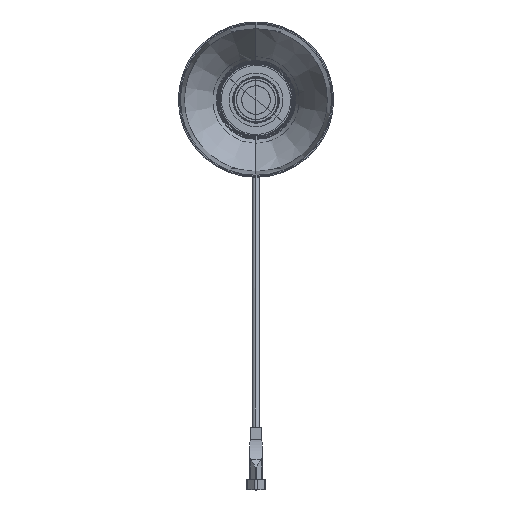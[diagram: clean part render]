
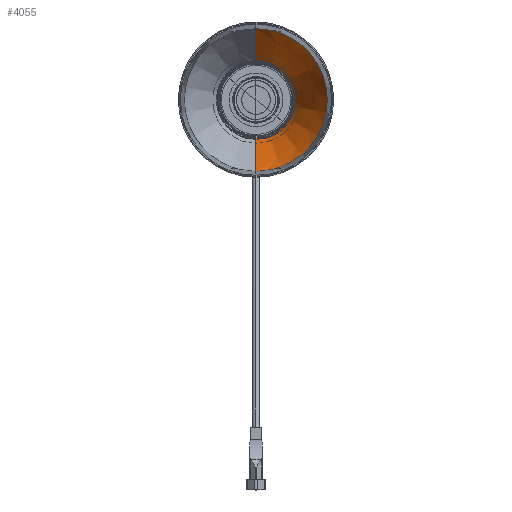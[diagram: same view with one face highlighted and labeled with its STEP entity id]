
A CAD part, top view. The second image highlights one B-rep face of the part: STEP entity #4055.
In plain terms, the highlighted conical face has half-angle 30 degrees and reference radius 52.701 mm.
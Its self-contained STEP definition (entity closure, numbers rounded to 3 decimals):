
#71=CONICAL_SURFACE('',#4496,52.701,0.524);
#210=B_SPLINE_CURVE_WITH_KNOTS('',3,(#8223,#8224,#8225,#8226,#8227,#8228,
#8229,#8230),.UNSPECIFIED.,.F.,.F.,(4,1,1,1,1,4),(0.,0.2,0.4,0.6,0.8,1.),
 .UNSPECIFIED.);
#601=FACE_OUTER_BOUND('',#858,.T.);
#858=EDGE_LOOP('',(#3552,#3553,#3554,#3555));
#1130=LINE('',#8243,#1392);
#1131=LINE('',#8246,#1393);
#1392=VECTOR('',#5584,304.8);
#1393=VECTOR('',#5587,304.8);
#1579=CIRCLE('',#4497,55.306);
#1903=VERTEX_POINT('',#8220);
#1904=VERTEX_POINT('',#8222);
#1905=VERTEX_POINT('',#8242);
#1906=VERTEX_POINT('',#8244);
#2464=EDGE_CURVE('',#1904,#1903,#210,.T.);
#2467=EDGE_CURVE('',#1905,#1903,#1130,.T.);
#2468=EDGE_CURVE('',#1906,#1905,#1579,.T.);
#2469=EDGE_CURVE('',#1904,#1906,#1131,.T.);
#3552=ORIENTED_EDGE('',*,*,#2467,.F.);
#3553=ORIENTED_EDGE('',*,*,#2468,.F.);
#3554=ORIENTED_EDGE('',*,*,#2469,.F.);
#3555=ORIENTED_EDGE('',*,*,#2464,.T.);
#4055=ADVANCED_FACE('',(#601),#71,.F.);
#4496=AXIS2_PLACEMENT_3D('',#8241,#5582,#5583);
#4497=AXIS2_PLACEMENT_3D('',#8245,#5585,#5586);
#5582=DIRECTION('center_axis',(0.,0.,
1.));
#5583=DIRECTION('ref_axis',(1.,0.,0.));
#5584=DIRECTION('',(0.,0.5,-0.866));
#5585=DIRECTION('center_axis',(0.,0.,
-1.));
#5586=DIRECTION('ref_axis',(-0.588,-0.809,0.));
#5587=DIRECTION('',(0.,0.5,0.866));
#8220=CARTESIAN_POINT('',(0.,-29.258,-4.225));
#8222=CARTESIAN_POINT('',(0.,29.258,-4.225));
#8223=CARTESIAN_POINT('Ctrl Pts',(0.,29.258,
-4.225));
#8224=CARTESIAN_POINT('Ctrl Pts',(6.286,29.474,-4.225));
#8225=CARTESIAN_POINT('Ctrl Pts',(18.292,25.177,-4.225));
#8226=CARTESIAN_POINT('Ctrl Pts',(29.733,9.69,-4.225));
#8227=CARTESIAN_POINT('Ctrl Pts',(29.733,-9.69,-4.225));
#8228=CARTESIAN_POINT('Ctrl Pts',(18.292,-25.177,-4.225));
#8229=CARTESIAN_POINT('Ctrl Pts',(6.286,-29.474,-4.225));
#8230=CARTESIAN_POINT('Ctrl Pts',(0.,-29.258,
-4.225));
#8241=CARTESIAN_POINT('Origin',(0.,0.,
36.38));
#8242=CARTESIAN_POINT('',(0.,-55.306,40.892));
#8243=CARTESIAN_POINT('',(0.,-55.306,40.892));
#8244=CARTESIAN_POINT('',(0.,55.306,40.892));
#8245=CARTESIAN_POINT('Origin',(0.,0.,
40.892));
#8246=CARTESIAN_POINT('',(0.,29.258,-4.225));
